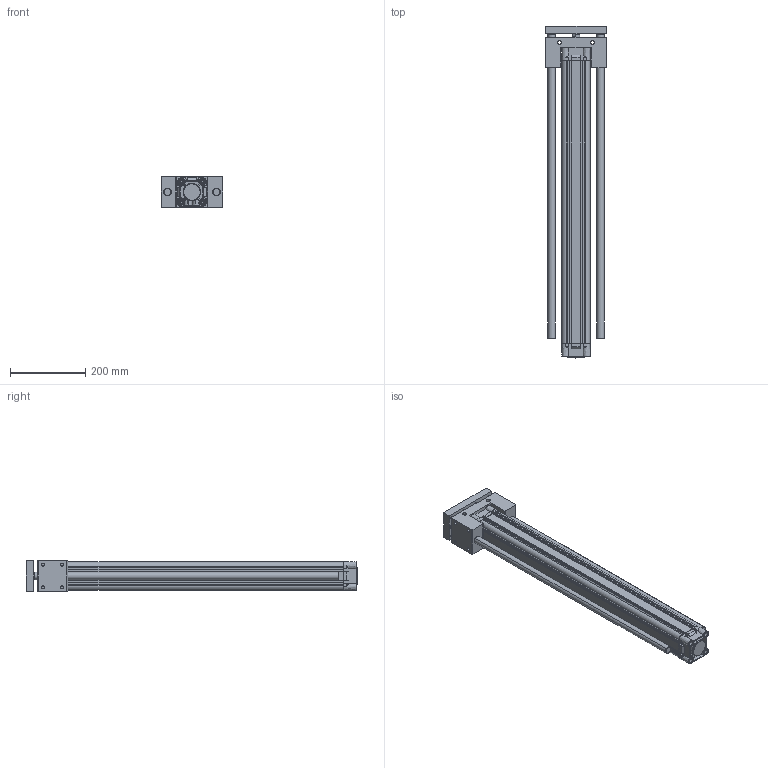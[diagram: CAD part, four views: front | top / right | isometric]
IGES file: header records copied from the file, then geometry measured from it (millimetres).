
Start section: SolidWorks IGES file using analytic representation for surfaces
Global section: file name: D:\ARICA 3D 禽Z軲LER\3D IGES\DNC-U\KDNC\63\KDNC63X700-U-YATAK.IGS,1; native system: 5HSolidWorks 2013; preprocessor: SolidWorks 2013; author: user; date: 160908.091533; units: millimetre
Bounding box: 164 x 882.5 x 80.5 mm (x, y, z)
Surface area: 910337.5 mm2 (no closed solid volume)
Topology: 0 solids, 0 shells, 959 faces, 17370 edges, 17360 vertices
Faces by surface type: revolution 536, bspline 423
